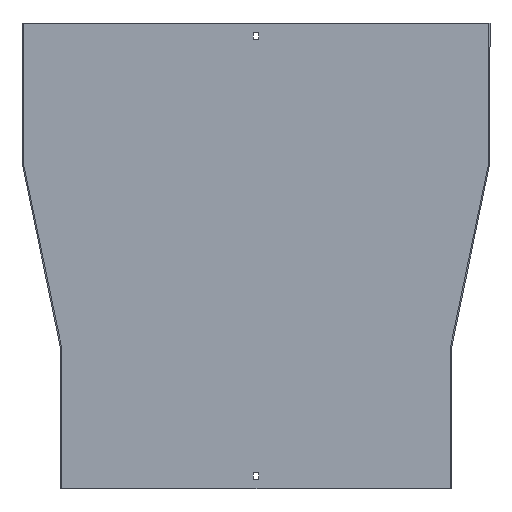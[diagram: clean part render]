
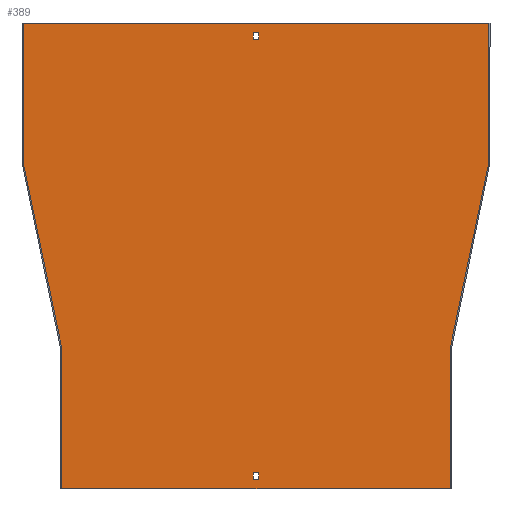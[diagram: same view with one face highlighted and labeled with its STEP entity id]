
A CAD part, front view. The second image highlights one B-rep face of the part: STEP entity #389.
In plain terms, the highlighted planar face has unit normal (0, -1, 0).
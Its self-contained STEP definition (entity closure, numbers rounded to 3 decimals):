
#1 = CARTESIAN_POINT ( 'NONE',  ( 0., -1.5, 0. ) ) ;
#14 = VERTEX_POINT ( 'NONE', #340 ) ;
#23 = FACE_OUTER_BOUND ( 'NONE', #239, .T. ) ;
#28 = CARTESIAN_POINT ( 'NONE',  ( 3.25, -1.5, -579. ) ) ;
#38 = EDGE_CURVE ( 'NONE', #601, #219, #532, .T. ) ;
#41 = CARTESIAN_POINT ( 'NONE',  ( 301.5, -1.5, 0. ) ) ;
#44 = VECTOR ( 'NONE', #454, 1000. ) ;
#46 = VERTEX_POINT ( 'NONE', #150 ) ;
#59 = ORIENTED_EDGE ( 'NONE', *, *, #293, .F. ) ;
#63 = LINE ( 'NONE', #723, #44 ) ;
#77 = CARTESIAN_POINT ( 'NONE',  ( -250., -1.5, -419.845 ) ) ;
#80 = VECTOR ( 'NONE', #321, 1000. ) ;
#81 = DIRECTION ( 'NONE',  ( 0., 0., 1. ) ) ;
#102 = EDGE_CURVE ( 'NONE', #790, #742, #437, .T. ) ;
#103 = DIRECTION ( 'NONE',  ( -0.204, 0., -0.979 ) ) ;
#106 = EDGE_CURVE ( 'NONE', #742, #601, #376, .T. ) ;
#110 = VECTOR ( 'NONE', #751, 1000. ) ;
#115 = LINE ( 'NONE', #839, #640 ) ;
#124 = VERTEX_POINT ( 'NONE', #306 ) ;
#130 = FACE_BOUND ( 'NONE', #593, .T. ) ;
#141 = VERTEX_POINT ( 'NONE', #430 ) ;
#148 = DIRECTION ( 'NONE',  ( 0., -1., 0. ) ) ;
#150 = CARTESIAN_POINT ( 'NONE',  ( 3.25, -1.5, -12. ) ) ;
#175 = CARTESIAN_POINT ( 'NONE',  ( -250., -1.5, -420. ) ) ;
#188 = ORIENTED_EDGE ( 'NONE', *, *, #106, .F. ) ;
#202 = EDGE_CURVE ( 'NONE', #14, #752, #393, .T. ) ;
#206 = VERTEX_POINT ( 'NONE', #712 ) ;
#209 = LINE ( 'NONE', #733, #445 ) ;
#219 = VERTEX_POINT ( 'NONE', #395 ) ;
#231 = EDGE_CURVE ( 'NONE', #628, #560, #115, .T. ) ;
#232 = DIRECTION ( 'NONE',  ( 1., 0., 0. ) ) ;
#236 = VECTOR ( 'NONE', #718, 1000. ) ;
#239 = EDGE_LOOP ( 'NONE', ( #285, #364, #188, #488, #726, #775, #546, #380 ) ) ;
#252 = EDGE_CURVE ( 'NONE', #284, #790, #315, .T. ) ;
#260 = LINE ( 'NONE', #787, #236 ) ;
#272 = LINE ( 'NONE', #530, #110 ) ;
#284 = VERTEX_POINT ( 'NONE', #702 ) ;
#285 = ORIENTED_EDGE ( 'NONE', *, *, #494, .F. ) ;
#293 = EDGE_CURVE ( 'NONE', #752, #46, #517, .T. ) ;
#301 = CARTESIAN_POINT ( 'NONE',  ( -3.25, -1.5, -588. ) ) ;
#306 = CARTESIAN_POINT ( 'NONE',  ( -3.25, -1.5, -12. ) ) ;
#308 = CARTESIAN_POINT ( 'NONE',  ( 250.032, -1.5, -419.694 ) ) ;
#314 = EDGE_CURVE ( 'NONE', #141, #429, #606, .T. ) ;
#315 = LINE ( 'NONE', #455, #80 ) ;
#321 = DIRECTION ( 'NONE',  ( -1., 0., 0. ) ) ;
#328 = DIRECTION ( 'NONE',  ( 1., 0., 0. ) ) ;
#331 = VECTOR ( 'NONE', #232, 1000. ) ;
#333 = VECTOR ( 'NONE', #791, 1000. ) ;
#340 = CARTESIAN_POINT ( 'NONE',  ( -3.25, -1.5, -21. ) ) ;
#343 = CARTESIAN_POINT ( 'NONE',  ( 300., -1.5, -180. ) ) ;
#346 = CARTESIAN_POINT ( 'NONE',  ( -250., -1.5, -600. ) ) ;
#348 = ORIENTED_EDGE ( 'NONE', *, *, #422, .T. ) ;
#364 = ORIENTED_EDGE ( 'NONE', *, *, #38, .F. ) ;
#366 = DIRECTION ( 'NONE',  ( -0.204, 0., 0.979 ) ) ;
#371 = CARTESIAN_POINT ( 'NONE',  ( 0., -1.5, -12. ) ) ;
#376 = LINE ( 'NONE', #566, #754 ) ;
#380 = ORIENTED_EDGE ( 'NONE', *, *, #314, .F. ) ;
#382 = EDGE_CURVE ( 'NONE', #206, #425, #209, .T. ) ;
#389 = ADVANCED_FACE ( 'NONE', ( #130, #23, #595 ), #411, .T. ) ;
#393 = LINE ( 'NONE', #513, #682 ) ;
#395 = CARTESIAN_POINT ( 'NONE',  ( -300., -1.5, 0. ) ) ;
#396 = ORIENTED_EDGE ( 'NONE', *, *, #231, .T. ) ;
#397 = LINE ( 'NONE', #783, #333 ) ;
#411 = PLANE ( 'NONE',  #588 ) ;
#418 = DIRECTION ( 'NONE',  ( 0., 0., -1. ) ) ;
#422 = EDGE_CURVE ( 'NONE', #560, #206, #272, .T. ) ;
#425 = VERTEX_POINT ( 'NONE', #301 ) ;
#429 = VERTEX_POINT ( 'NONE', #745 ) ;
#430 = CARTESIAN_POINT ( 'NONE',  ( 300., -1.5, 0. ) ) ;
#433 = ORIENTED_EDGE ( 'NONE', *, *, #202, .F. ) ;
#435 = LINE ( 'NONE', #308, #519 ) ;
#437 = LINE ( 'NONE', #175, #700 ) ;
#439 = DIRECTION ( 'NONE',  ( -1., 0., 0. ) ) ;
#445 = VECTOR ( 'NONE', #652, 1000. ) ;
#446 = EDGE_CURVE ( 'NONE', #46, #124, #761, .T. ) ;
#454 = DIRECTION ( 'NONE',  ( 0., 0., -1. ) ) ;
#455 = CARTESIAN_POINT ( 'NONE',  ( -251.5, -1.5, -600. ) ) ;
#469 = EDGE_LOOP ( 'NONE', ( #541, #496, #396, #348 ) ) ;
#488 = ORIENTED_EDGE ( 'NONE', *, *, #102, .F. ) ;
#492 = ORIENTED_EDGE ( 'NONE', *, *, #446, .F. ) ;
#494 = EDGE_CURVE ( 'NONE', #219, #141, #689, .T. ) ;
#496 = ORIENTED_EDGE ( 'NONE', *, *, #687, .T. ) ;
#498 = VECTOR ( 'NONE', #728, 1000. ) ;
#513 = CARTESIAN_POINT ( 'NONE',  ( 0., -1.5, -21. ) ) ;
#517 = LINE ( 'NONE', #641, #498 ) ;
#519 = VECTOR ( 'NONE', #103, 1000. ) ;
#530 = CARTESIAN_POINT ( 'NONE',  ( 3.25, -1.5, 0. ) ) ;
#532 = LINE ( 'NONE', #795, #636 ) ;
#537 = ORIENTED_EDGE ( 'NONE', *, *, #643, .F. ) ;
#539 = CARTESIAN_POINT ( 'NONE',  ( 3.25, -1.5, -21. ) ) ;
#541 = ORIENTED_EDGE ( 'NONE', *, *, #382, .T. ) ;
#546 = ORIENTED_EDGE ( 'NONE', *, *, #556, .F. ) ;
#547 = CARTESIAN_POINT ( 'NONE',  ( 250., -1.5, -419.845 ) ) ;
#556 = EDGE_CURVE ( 'NONE', #429, #817, #435, .T. ) ;
#557 = DIRECTION ( 'NONE',  ( 0., 0., 1. ) ) ;
#560 = VERTEX_POINT ( 'NONE', #28 ) ;
#566 = CARTESIAN_POINT ( 'NONE',  ( -300.032, -1.5, -179.694 ) ) ;
#588 = AXIS2_PLACEMENT_3D ( 'NONE', #1, #148, #418 ) ;
#591 = EDGE_CURVE ( 'NONE', #817, #284, #397, .T. ) ;
#593 = EDGE_LOOP ( 'NONE', ( #537, #492, #59, #433 ) ) ;
#595 = FACE_BOUND ( 'NONE', #469, .T. ) ;
#601 = VERTEX_POINT ( 'NONE', #764 ) ;
#606 = LINE ( 'NONE', #343, #756 ) ;
#628 = VERTEX_POINT ( 'NONE', #777 ) ;
#632 = VECTOR ( 'NONE', #439, 1000. ) ;
#636 = VECTOR ( 'NONE', #81, 1000. ) ;
#638 = DIRECTION ( 'NONE',  ( 1., 0., 0. ) ) ;
#640 = VECTOR ( 'NONE', #328, 1000. ) ;
#641 = CARTESIAN_POINT ( 'NONE',  ( 3.25, -1.5, 0. ) ) ;
#643 = EDGE_CURVE ( 'NONE', #124, #14, #63, .T. ) ;
#652 = DIRECTION ( 'NONE',  ( -1., 0., 0. ) ) ;
#682 = VECTOR ( 'NONE', #638, 1000. ) ;
#687 = EDGE_CURVE ( 'NONE', #425, #628, #260, .T. ) ;
#689 = LINE ( 'NONE', #41, #331 ) ;
#700 = VECTOR ( 'NONE', #557, 1000. ) ;
#702 = CARTESIAN_POINT ( 'NONE',  ( 250., -1.5, -600. ) ) ;
#712 = CARTESIAN_POINT ( 'NONE',  ( 3.25, -1.5, -588. ) ) ;
#718 = DIRECTION ( 'NONE',  ( 0., 0., 1. ) ) ;
#723 = CARTESIAN_POINT ( 'NONE',  ( -3.25, -1.5, 0. ) ) ;
#726 = ORIENTED_EDGE ( 'NONE', *, *, #252, .F. ) ;
#728 = DIRECTION ( 'NONE',  ( 0., 0., 1. ) ) ;
#733 = CARTESIAN_POINT ( 'NONE',  ( 0., -1.5, -588. ) ) ;
#742 = VERTEX_POINT ( 'NONE', #77 ) ;
#745 = CARTESIAN_POINT ( 'NONE',  ( 300., -1.5, -179.845 ) ) ;
#751 = DIRECTION ( 'NONE',  ( 0., 0., -1. ) ) ;
#752 = VERTEX_POINT ( 'NONE', #539 ) ;
#754 = VECTOR ( 'NONE', #366, 1000. ) ;
#756 = VECTOR ( 'NONE', #792, 1000. ) ;
#761 = LINE ( 'NONE', #371, #632 ) ;
#764 = CARTESIAN_POINT ( 'NONE',  ( -300., -1.5, -179.845 ) ) ;
#775 = ORIENTED_EDGE ( 'NONE', *, *, #591, .F. ) ;
#777 = CARTESIAN_POINT ( 'NONE',  ( -3.25, -1.5, -579. ) ) ;
#783 = CARTESIAN_POINT ( 'NONE',  ( 250., -1.5, -600. ) ) ;
#787 = CARTESIAN_POINT ( 'NONE',  ( -3.25, -1.5, 0. ) ) ;
#790 = VERTEX_POINT ( 'NONE', #346 ) ;
#791 = DIRECTION ( 'NONE',  ( 0., 0., -1. ) ) ;
#792 = DIRECTION ( 'NONE',  ( 0., 0., -1. ) ) ;
#795 = CARTESIAN_POINT ( 'NONE',  ( -300., -1.5, 0. ) ) ;
#817 = VERTEX_POINT ( 'NONE', #547 ) ;
#839 = CARTESIAN_POINT ( 'NONE',  ( 0., -1.5, -579. ) ) ;
